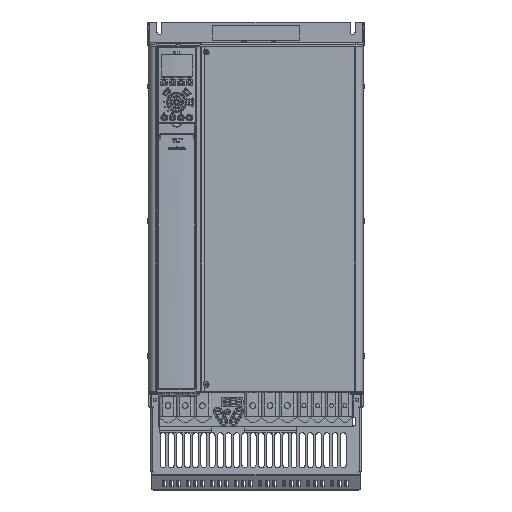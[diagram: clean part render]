
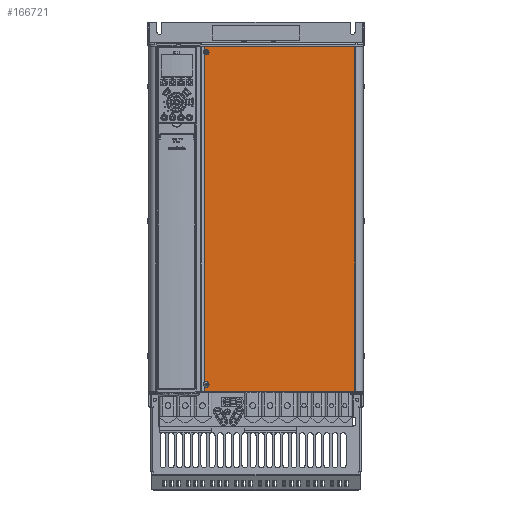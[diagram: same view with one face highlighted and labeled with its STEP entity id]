
A CAD part, top view. The second image highlights one B-rep face of the part: STEP entity #166721.
In plain terms, the highlighted planar face has unit normal (0, 0, 1).
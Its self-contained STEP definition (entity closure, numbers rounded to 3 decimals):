
#21257=DIRECTION('',(1.,0.,0.));
#21258=VECTOR('',#21257,257.671);
#21259=CARTESIAN_POINT('',(-88.56,293.55,325.8));
#21260=LINE('',#21259,#21258);
#43044=DIRECTION('',(1.,0.,0.));
#43045=VECTOR('',#43044,250.452);
#43046=CARTESIAN_POINT('',(-88.56,-295.5,325.8));
#43047=LINE('',#43046,#43045);
#43053=DIRECTION('',(1.,0.,0.));
#43054=VECTOR('',#43053,1.003);
#43055=CARTESIAN_POINT('',(168.108,-295.5,325.8));
#43056=LINE('',#43055,#43054);
#43109=CARTESIAN_POINT('',(-88.56,-281.231,325.8));
#43333=CARTESIAN_POINT('',(-88.56,-286.569,325.8));
#43339=CARTESIAN_POINT('',(-88.56,286.569,325.8));
#43563=CARTESIAN_POINT('',(-88.56,281.231,325.8));
#43565=CARTESIAN_POINT('',(-85.,-283.9,325.8));
#43566=DIRECTION('',(0.,0.,-1.));
#43567=DIRECTION('',(-0.8,0.6,0.));
#43568=AXIS2_PLACEMENT_3D('',#43565,#43566,#43567);
#43580=DIRECTION('',(0.,-1.,0.));
#43581=VECTOR('',#43580,562.461);
#43582=CARTESIAN_POINT('',(-88.56,281.231,325.8));
#43583=LINE('',#43582,#43581);
#43584=CARTESIAN_POINT('',(-85.,286.1,325.8));
#43585=DIRECTION('',(0.,0.,1.));
#43586=DIRECTION('',(0.49,0.871,0.));
#43587=AXIS2_PLACEMENT_3D('',#43584,#43585,#43586);
#43589=CARTESIAN_POINT('',(-85.,283.9,325.8));
#43590=DIRECTION('',(0.,0.,-1.));
#43591=DIRECTION('',(-0.8,0.6,0.));
#43592=AXIS2_PLACEMENT_3D('',#43589,#43590,#43591);
#43594=DIRECTION('',(0.,-1.,0.));
#43595=VECTOR('',#43594,6.981);
#43596=CARTESIAN_POINT('',(-88.56,293.55,325.8));
#43597=LINE('',#43596,#43595);
#43598=CARTESIAN_POINT('',(168.108,-295.5,325.8));
#43599=CARTESIAN_POINT('',(168.084,-295.498,325.8));
#43600=CARTESIAN_POINT('',(168.036,-295.493,325.8));
#43601=CARTESIAN_POINT('',(167.965,-295.486,325.8));
#43602=CARTESIAN_POINT('',(167.894,-295.481,325.8));
#43603=CARTESIAN_POINT('',(167.824,-295.475,325.8));
#43604=CARTESIAN_POINT('',(167.754,-295.471,325.8));
#43605=CARTESIAN_POINT('',(167.685,-295.467,325.8));
#43606=CARTESIAN_POINT('',(167.616,-295.463,325.8));
#43607=CARTESIAN_POINT('',(167.548,-295.46,325.8));
#43608=CARTESIAN_POINT('',(167.48,-295.458,325.8));
#43609=CARTESIAN_POINT('',(167.412,-295.455,325.8));
#43610=CARTESIAN_POINT('',(167.345,-295.454,325.8));
#43611=CARTESIAN_POINT('',(167.277,-295.452,325.8));
#43612=CARTESIAN_POINT('',(167.211,-295.451,325.8));
#43613=CARTESIAN_POINT('',(167.144,-295.451,325.8));
#43614=CARTESIAN_POINT('',(167.077,-295.45,325.8));
#43615=CARTESIAN_POINT('',(167.033,-295.45,325.8));
#43616=CARTESIAN_POINT('',(167.011,-295.45,325.8));
#43618=DIRECTION('',(-1.,0.,0.));
#43619=VECTOR('',#43618,4.022);
#43620=CARTESIAN_POINT('',(167.011,-295.45,325.8));
#43621=LINE('',#43620,#43619);
#43622=CARTESIAN_POINT('',(162.989,-295.45,325.8));
#43623=CARTESIAN_POINT('',(162.967,-295.45,325.8));
#43624=CARTESIAN_POINT('',(162.923,-295.45,325.8));
#43625=CARTESIAN_POINT('',(162.856,-295.451,325.8));
#43626=CARTESIAN_POINT('',(162.789,-295.451,325.8));
#43627=CARTESIAN_POINT('',(162.722,-295.452,325.8));
#43628=CARTESIAN_POINT('',(162.655,-295.454,325.8));
#43629=CARTESIAN_POINT('',(162.588,-295.455,325.8));
#43630=CARTESIAN_POINT('',(162.52,-295.458,325.8));
#43631=CARTESIAN_POINT('',(162.452,-295.46,325.8));
#43632=CARTESIAN_POINT('',(162.384,-295.463,325.8));
#43633=CARTESIAN_POINT('',(162.315,-295.467,325.8));
#43634=CARTESIAN_POINT('',(162.246,-295.471,325.8));
#43635=CARTESIAN_POINT('',(162.176,-295.475,325.8));
#43636=CARTESIAN_POINT('',(162.106,-295.481,325.8));
#43637=CARTESIAN_POINT('',(162.035,-295.486,325.8));
#43638=CARTESIAN_POINT('',(161.964,-295.493,325.8));
#43639=CARTESIAN_POINT('',(161.916,-295.498,325.8));
#43640=CARTESIAN_POINT('',(161.892,-295.5,325.8));
#43642=DIRECTION('',(0.,-1.,0.));
#43643=VECTOR('',#43642,8.931);
#43644=CARTESIAN_POINT('',(-88.56,-286.569,325.8));
#43645=LINE('',#43644,#43643);
#43646=CARTESIAN_POINT('',(-85.,-283.9,325.8));
#43647=DIRECTION('',(0.,0.,-1.));
#43648=DIRECTION('',(-0.265,-0.964,0.));
#43649=AXIS2_PLACEMENT_3D('',#43646,#43647,#43648);
#43651=CARTESIAN_POINT('',(-85.,-286.1,325.8));
#43652=DIRECTION('',(0.,0.,1.));
#43653=DIRECTION('',(-0.49,-0.871,0.));
#43654=AXIS2_PLACEMENT_3D('',#43651,#43652,#43653);
#43656=CARTESIAN_POINT('',(-85.,283.9,325.8));
#43657=DIRECTION('',(0.,0.,-1.));
#43658=DIRECTION('',(0.265,0.964,0.));
#43659=AXIS2_PLACEMENT_3D('',#43656,#43657,#43658);
#44869=DIRECTION('',(0.,-1.,0.));
#44870=VECTOR('',#44869,589.05);
#44871=CARTESIAN_POINT('',(169.111,293.55,325.8));
#44872=LINE('',#44871,#44870);
#99123=CARTESIAN_POINT('',(169.111,-295.5,325.8));
#99125=VERTEX_POINT('',#99123);
#99139=CARTESIAN_POINT('',(-88.56,-295.5,325.8));
#99140=VERTEX_POINT('',#99139);
#99142=CARTESIAN_POINT('',(169.111,293.55,325.8));
#99144=VERTEX_POINT('',#99142);
#99147=CARTESIAN_POINT('',(-88.56,293.55,325.8));
#99149=VERTEX_POINT('',#99147);
#107369=CARTESIAN_POINT('',(167.011,-295.45,325.8));
#107370=CARTESIAN_POINT('',(162.989,-295.45,325.8));
#107371=VERTEX_POINT('',#107369);
#107372=VERTEX_POINT('',#107370);
#107373=VERTEX_POINT('',#43640);
#107374=VERTEX_POINT('',#43598);
#113385=VERTEX_POINT('',#43339);
#113389=VERTEX_POINT('',#43563);
#113390=CARTESIAN_POINT('',(-86.177,288.191,325.8));
#113391=VERTEX_POINT('',#113390);
#113408=CARTESIAN_POINT('',(-83.823,288.191,325.8));
#113409=VERTEX_POINT('',#113408);
#113533=VERTEX_POINT('',#43109);
#113537=VERTEX_POINT('',#43333);
#113538=CARTESIAN_POINT('',(-86.177,-288.191,325.8));
#113539=VERTEX_POINT('',#113538);
#113554=CARTESIAN_POINT('',(-83.823,-288.191,325.8));
#113555=VERTEX_POINT('',#113554);
#166690=CARTESIAN_POINT('',(-88.56,295.5,325.8));
#166691=DIRECTION('',(0.,0.,-1.));
#166692=DIRECTION('',(1.,0.,0.));
#166693=AXIS2_PLACEMENT_3D('',#166690,#166691,#166692);
#166694=PLANE('',#166693);
#166695=ORIENTED_EDGE('',*,*,#166675,.F.);
#166696=ORIENTED_EDGE('',*,*,#166665,.F.);
#166698=ORIENTED_EDGE('',*,*,#166697,.F.);
#166700=ORIENTED_EDGE('',*,*,#166699,.T.);
#166702=ORIENTED_EDGE('',*,*,#166701,.F.);
#166703=ORIENTED_EDGE('',*,*,#166655,.F.);
#166704=ORIENTED_EDGE('',*,*,#144140,.T.);
#166706=ORIENTED_EDGE('',*,*,#166705,.T.);
#166707=ORIENTED_EDGE('',*,*,#166517,.F.);
#166709=ORIENTED_EDGE('',*,*,#166708,.T.);
#166711=ORIENTED_EDGE('',*,*,#166710,.T.);
#166713=ORIENTED_EDGE('',*,*,#166712,.T.);
#166714=ORIENTED_EDGE('',*,*,#166513,.F.);
#166715=ORIENTED_EDGE('',*,*,#166650,.F.);
#166716=ORIENTED_EDGE('',*,*,#166679,.F.);
#166718=ORIENTED_EDGE('',*,*,#166717,.T.);
#166719=EDGE_LOOP('',(#166695,#166696,#166698,#166700,#166702,#166703,#166704,
#166706,#166707,#166709,#166711,#166713,#166714,#166715,#166716,#166718));
#166720=FACE_OUTER_BOUND('',#166719,.F.);
#166721=ADVANCED_FACE('',(#166720),#166694,.F.);
#43569=CIRCLE('',#43568,4.45);
#43588=CIRCLE('',#43587,2.4);
#43593=CIRCLE('',#43592,4.45);
#43617=B_SPLINE_CURVE_WITH_KNOTS('',3,(#43598,#43599,#43600,#43601,#43602,
#43603,#43604,#43605,#43606,#43607,#43608,#43609,#43610,#43611,#43612,#43613,
#43614,#43615,#43616),.UNSPECIFIED.,.F.,.F.,(4,1,1,1,1,1,1,1,1,1,1,1,1,1,1,1,4),
(0.,0.063,0.125,0.188,0.25,0.313,0.375,0.438,0.5,0.563,
0.625,0.688,0.75,0.813,0.875,0.938,1.),.UNSPECIFIED.);
#43641=B_SPLINE_CURVE_WITH_KNOTS('',3,(#43622,#43623,#43624,#43625,#43626,
#43627,#43628,#43629,#43630,#43631,#43632,#43633,#43634,#43635,#43636,#43637,
#43638,#43639,#43640),.UNSPECIFIED.,.F.,.F.,(4,1,1,1,1,1,1,1,1,1,1,1,1,1,1,1,4),
(0.,0.063,0.125,0.188,0.25,0.313,0.375,0.438,0.5,0.563,
0.625,0.688,0.75,0.813,0.875,0.938,1.),.UNSPECIFIED.);
#43650=CIRCLE('',#43649,4.45);
#43655=CIRCLE('',#43654,2.4);
#43660=CIRCLE('',#43659,4.45);
#144140=EDGE_CURVE('',#99149,#99144,#21260,.T.);
#166513=EDGE_CURVE('',#99140,#107373,#43047,.T.);
#166517=EDGE_CURVE('',#107374,#99125,#43056,.T.);
#166650=EDGE_CURVE('',#113537,#99140,#43645,.T.);
#166655=EDGE_CURVE('',#99149,#113385,#43597,.T.);
#166665=EDGE_CURVE('',#113389,#113533,#43583,.T.);
#166675=EDGE_CURVE('',#113533,#113555,#43569,.T.);
#166679=EDGE_CURVE('',#113539,#113537,#43650,.T.);
#166697=EDGE_CURVE('',#113409,#113389,#43660,.T.);
#166699=EDGE_CURVE('',#113409,#113391,#43588,.T.);
#166701=EDGE_CURVE('',#113385,#113391,#43593,.T.);
#166705=EDGE_CURVE('',#99144,#99125,#44872,.T.);
#166708=EDGE_CURVE('',#107374,#107371,#43617,.T.);
#166710=EDGE_CURVE('',#107371,#107372,#43621,.T.);
#166712=EDGE_CURVE('',#107372,#107373,#43641,.T.);
#166717=EDGE_CURVE('',#113539,#113555,#43655,.T.);
